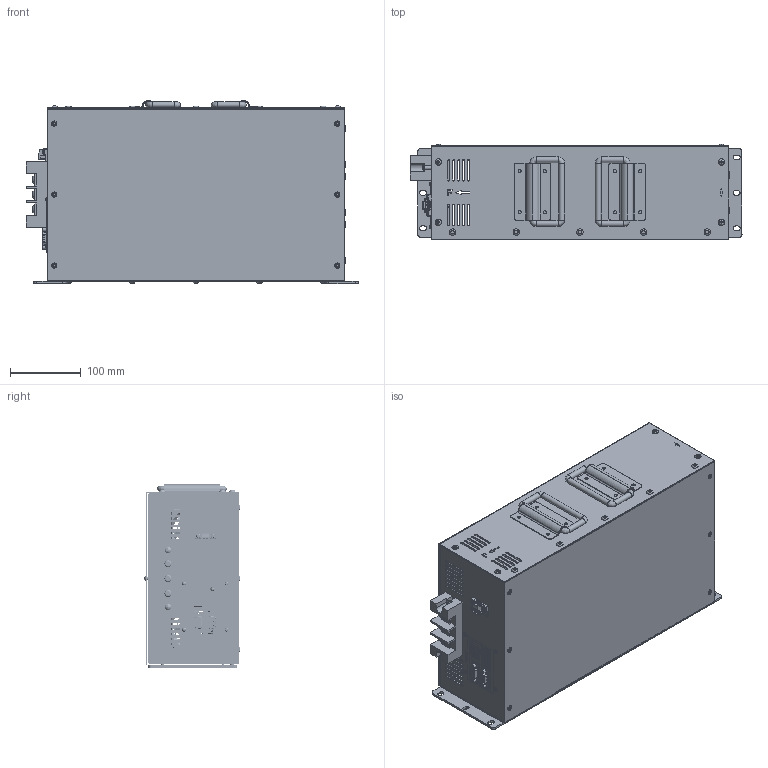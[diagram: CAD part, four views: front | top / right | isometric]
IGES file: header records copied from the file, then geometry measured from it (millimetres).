
Global section: file name: VX3COM_V_HANDLE2SM_2024.07.23; native system: Autodesk Inventor 2021; preprocessor: unknown; author: eunsol jang; date: 20250724.160856; units: inch
Bounding box: 468 x 134.59 x 258.2 mm (x, y, z)
Volume: 730305.6 mm3; surface area: 903383 mm2
Topology: 9 solids, 9 shells, 4796 faces, 14202 edges, 9826 vertices
Faces by surface type: bspline 4796
